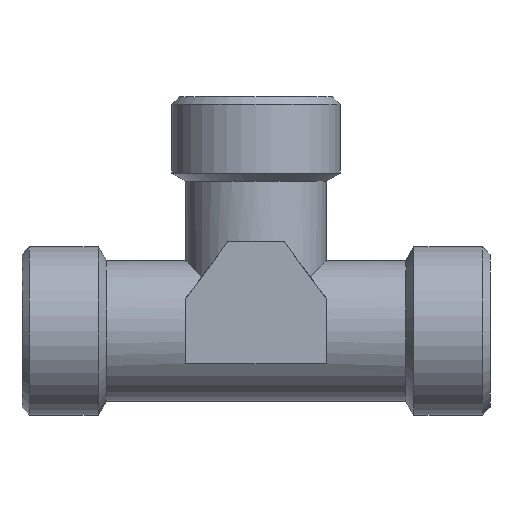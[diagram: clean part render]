
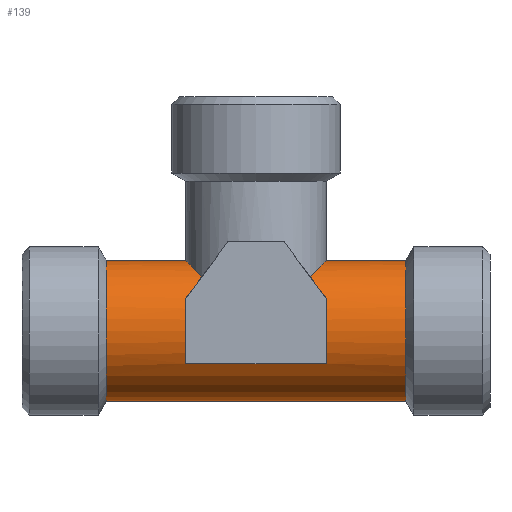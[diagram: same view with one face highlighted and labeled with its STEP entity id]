
A CAD part, front view. The second image highlights one B-rep face of the part: STEP entity #139.
In plain terms, the highlighted cylindrical face has radius 7.5 mm (diameter 15 mm), a full revolution.
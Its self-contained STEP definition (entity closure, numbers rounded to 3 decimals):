
#139 = ADVANCED_FACE( '', ( #297, #298, #299 ), #300, .T. );
#297 = FACE_OUTER_BOUND( '', #448, .T. );
#298 = FACE_OUTER_BOUND( '', #449, .T. );
#299 = FACE_BOUND( '', #450, .T. );
#300 = CYLINDRICAL_SURFACE( '', #451, 7.5 );
#448 = EDGE_LOOP( '', ( #728 ) );
#449 = EDGE_LOOP( '', ( #729 ) );
#450 = EDGE_LOOP( '', ( #730, #731, #732, #733, #734, #735, #736, #737, #738, #739, #740, #741 ) );
#451 = AXIS2_PLACEMENT_3D( '', #742, #743, #744 );
#728 = ORIENTED_EDGE( '', *, *, #771, .T. );
#729 = ORIENTED_EDGE( '', *, *, #805, .F. );
#730 = ORIENTED_EDGE( '', *, *, #751, .F. );
#731 = ORIENTED_EDGE( '', *, *, #813, .T. );
#732 = ORIENTED_EDGE( '', *, *, #775, .T. );
#733 = ORIENTED_EDGE( '', *, *, #765, .T. );
#734 = ORIENTED_EDGE( '', *, *, #785, .T. );
#735 = ORIENTED_EDGE( '', *, *, #800, .T. );
#736 = ORIENTED_EDGE( '', *, *, #755, .F. );
#737 = ORIENTED_EDGE( '', *, *, #834, .T. );
#738 = ORIENTED_EDGE( '', *, *, #831, .T. );
#739 = ORIENTED_EDGE( '', *, *, #789, .T. );
#740 = ORIENTED_EDGE( '', *, *, #844, .T. );
#741 = ORIENTED_EDGE( '', *, *, #848, .T. );
#742 = CARTESIAN_POINT( '', ( 14.5, 0., 0. ) );
#743 = DIRECTION( '', ( 1., 0., 0. ) );
#744 = DIRECTION( '', ( 0., 0., 1. ) );
#751 = EDGE_CURVE( '', #861, #863, #864, .T. );
#755 = EDGE_CURVE( '', #869, #871, #872, .F. );
#765 = EDGE_CURVE( '', #887, #888, #889, .T. );
#771 = EDGE_CURVE( '', #898, #898, #899, .T. );
#775 = EDGE_CURVE( '', #904, #887, #905, .F. );
#785 = EDGE_CURVE( '', #888, #920, #921, .F. );
#789 = EDGE_CURVE( '', #926, #927, #928, .F. );
#800 = EDGE_CURVE( '', #920, #871, #945, .F. );
#805 = EDGE_CURVE( '', #952, #952, #953, .T. );
#813 = EDGE_CURVE( '', #861, #904, #964, .F. );
#831 = EDGE_CURVE( '', #989, #926, #990, .F. );
#834 = EDGE_CURVE( '', #869, #989, #993, .F. );
#844 = EDGE_CURVE( '', #927, #1004, #1005, .F. );
#848 = EDGE_CURVE( '', #1004, #863, #1009, .F. );
#861 = VERTEX_POINT( '', #1022 );
#863 = VERTEX_POINT( '', #1024 );
#864 = ELLIPSE( '', #1025, 10.607, 7.5 );
#869 = VERTEX_POINT( '', #1030 );
#871 = VERTEX_POINT( '', #1032 );
#872 = ELLIPSE( '', #1033, 10.607, 7.5 );
#887 = VERTEX_POINT( '', #1048 );
#888 = VERTEX_POINT( '', #1049 );
#889 = LINE( '', #1050, #1051 );
#898 = VERTEX_POINT( '', #1063 );
#899 = CIRCLE( '', #1064, 7.5 );
#904 = VERTEX_POINT( '', #1069 );
#905 = CIRCLE( '', #1070, 7.5 );
#920 = VERTEX_POINT( '', #1087 );
#921 = CIRCLE( '', #1088, 7.5 );
#926 = VERTEX_POINT( '', #1095 );
#927 = VERTEX_POINT( '', #1096 );
#928 = LINE( '', #1097, #1098 );
#945 = ELLIPSE( '', #1123, 9.375, 7.5 );
#952 = VERTEX_POINT( '', #1132 );
#953 = CIRCLE( '', #1133, 7.5 );
#964 = ELLIPSE( '', #1146, 9.375, 7.5 );
#989 = VERTEX_POINT( '', #1172 );
#990 = CIRCLE( '', #1173, 7.5 );
#993 = ELLIPSE( '', #1177, 9.375, 7.5 );
#1004 = VERTEX_POINT( '', #1189 );
#1005 = CIRCLE( '', #1190, 7.5 );
#1009 = ELLIPSE( '', #1195, 9.375, 7.5 );
#1022 = CARTESIAN_POINT( '', ( 5.786, -4.772, 5.786 ) );
#1024 = CARTESIAN_POINT( '', ( 5.786, 4.772, 5.786 ) );
#1025 = AXIS2_PLACEMENT_3D( '', #1212, #1213, #1214 );
#1030 = CARTESIAN_POINT( '', ( -5.786, 4.772, 5.786 ) );
#1032 = CARTESIAN_POINT( '', ( -5.786, -4.772, 5.786 ) );
#1033 = AXIS2_PLACEMENT_3D( '', #1224, #1225, #1226 );
#1048 = CARTESIAN_POINT( '', ( 7.5, -6.633, -3.5 ) );
#1049 = CARTESIAN_POINT( '', ( -7.5, -6.633, -3.5 ) );
#1050 = CARTESIAN_POINT( '', ( 14.5, -6.633, -3.5 ) );
#1051 = VECTOR( '', #1245, 1000. );
#1063 = CARTESIAN_POINT( '', ( 16., 0., 7.5 ) );
#1064 = AXIS2_PLACEMENT_3D( '', #1252, #1253, #1254 );
#1069 = CARTESIAN_POINT( '', ( 7.5, -6.633, 3.5 ) );
#1070 = AXIS2_PLACEMENT_3D( '', #1258, #1259, #1260 );
#1087 = CARTESIAN_POINT( '', ( -7.5, -6.633, 3.5 ) );
#1088 = AXIS2_PLACEMENT_3D( '', #1275, #1276, #1277 );
#1095 = CARTESIAN_POINT( '', ( -7.5, 6.633, -3.5 ) );
#1096 = CARTESIAN_POINT( '', ( 7.5, 6.633, -3.5 ) );
#1097 = CARTESIAN_POINT( '', ( 14.5, 6.633, -3.5 ) );
#1098 = VECTOR( '', #1280, 1000. );
#1123 = AXIS2_PLACEMENT_3D( '', #1289, #1290, #1291 );
#1132 = CARTESIAN_POINT( '', ( -16., 0., 7.5 ) );
#1133 = AXIS2_PLACEMENT_3D( '', #1297, #1298, #1299 );
#1146 = AXIS2_PLACEMENT_3D( '', #1308, #1309, #1310 );
#1172 = CARTESIAN_POINT( '', ( -7.5, 6.633, 3.5 ) );
#1173 = AXIS2_PLACEMENT_3D( '', #1333, #1334, #1335 );
#1177 = AXIS2_PLACEMENT_3D( '', #1337, #1338, #1339 );
#1189 = CARTESIAN_POINT( '', ( 7.5, 6.633, 3.5 ) );
#1190 = AXIS2_PLACEMENT_3D( '', #1344, #1345, #1346 );
#1195 = AXIS2_PLACEMENT_3D( '', #1348, #1349, #1350 );
#1212 = CARTESIAN_POINT( '', ( 0., 0., 0. ) );
#1213 = DIRECTION( '', ( -0.707, 0., 0.707 ) );
#1214 = DIRECTION( '', ( -0.707, 0., -0.707 ) );
#1224 = CARTESIAN_POINT( '', ( 0., 0., 0. ) );
#1225 = DIRECTION( '', ( -0.707, 0., -0.707 ) );
#1226 = DIRECTION( '', ( -0.707, 0., 0.707 ) );
#1245 = DIRECTION( '', ( -1., 0., 0. ) );
#1252 = CARTESIAN_POINT( '', ( 16., 0., 0. ) );
#1253 = DIRECTION( '', ( -1., 0., 0. ) );
#1254 = DIRECTION( '', ( 0., 0., 1. ) );
#1258 = CARTESIAN_POINT( '', ( 7.5, 0., 0. ) );
#1259 = DIRECTION( '', ( -1., 0., 0. ) );
#1260 = DIRECTION( '', ( 0., 0., 1. ) );
#1275 = CARTESIAN_POINT( '', ( -7.5, 0., 0. ) );
#1276 = DIRECTION( '', ( 1., 0., 0. ) );
#1277 = DIRECTION( '', ( 0., 0., -1. ) );
#1280 = DIRECTION( '', ( -1., 0., 0. ) );
#1289 = CARTESIAN_POINT( '', ( -10.125, 0., 0. ) );
#1290 = DIRECTION( '', ( 0.8, 0., -0.6 ) );
#1291 = DIRECTION( '', ( -0.6, 0., -0.8 ) );
#1297 = CARTESIAN_POINT( '', ( -16., 0., 0. ) );
#1298 = DIRECTION( '', ( -1., 0., 0. ) );
#1299 = DIRECTION( '', ( 0., 0., 1. ) );
#1308 = CARTESIAN_POINT( '', ( 10.125, 0., 0. ) );
#1309 = DIRECTION( '', ( -0.8, 0., -0.6 ) );
#1310 = DIRECTION( '', ( -0.6, 0., 0.8 ) );
#1333 = CARTESIAN_POINT( '', ( -7.5, 0., 0. ) );
#1334 = DIRECTION( '', ( 1., 0., 0. ) );
#1335 = DIRECTION( '', ( 0., 0., -1. ) );
#1337 = CARTESIAN_POINT( '', ( -10.125, 0., 0. ) );
#1338 = DIRECTION( '', ( 0.8, 0., -0.6 ) );
#1339 = DIRECTION( '', ( -0.6, 0., -0.8 ) );
#1344 = CARTESIAN_POINT( '', ( 7.5, 0., 0. ) );
#1345 = DIRECTION( '', ( -1., 0., 0. ) );
#1346 = DIRECTION( '', ( 0., 0., 1. ) );
#1348 = CARTESIAN_POINT( '', ( 10.125, 0., 0. ) );
#1349 = DIRECTION( '', ( -0.8, 0., -0.6 ) );
#1350 = DIRECTION( '', ( -0.6, 0., 0.8 ) );
